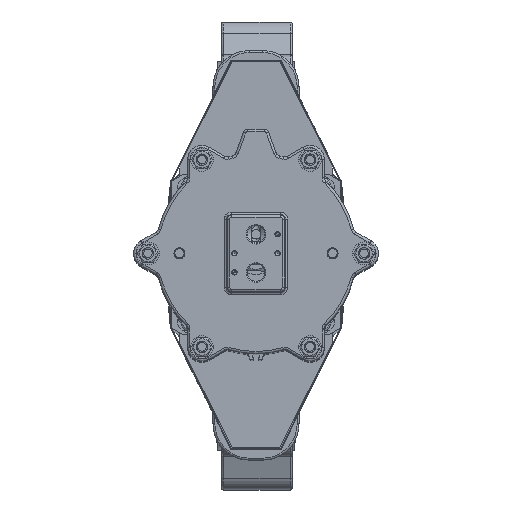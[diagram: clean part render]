
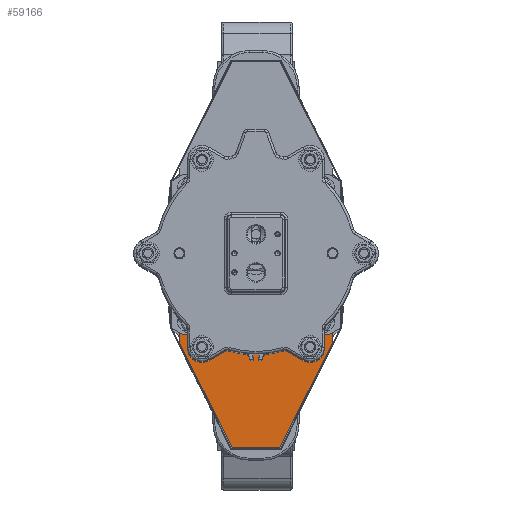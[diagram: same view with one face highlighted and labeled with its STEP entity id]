
A CAD part, top view. The second image highlights one B-rep face of the part: STEP entity #59166.
In plain terms, the highlighted planar face has unit normal (0, 0, 1).
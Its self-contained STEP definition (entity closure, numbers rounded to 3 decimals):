
#2711=PLANE('',#66504);
#7805=FACE_OUTER_BOUND('',#11788,.T.);
#11788=EDGE_LOOP('',(#55338,#55339,#55340,#55341,#55342,#55343));
#20032=LINE('',#121666,#23489);
#20035=LINE('',#121672,#23492);
#20060=LINE('',#121733,#23517);
#20064=LINE('',#121741,#23521);
#20066=LINE('',#121744,#23523);
#20067=LINE('',#121746,#23524);
#23489=VECTOR('',#84483,10.);
#23492=VECTOR('',#84488,10.);
#23517=VECTOR('',#84553,10.);
#23521=VECTOR('',#84561,10.);
#23523=VECTOR('',#84565,10.);
#23524=VECTOR('',#84568,10.);
#28963=VERTEX_POINT('',#121628);
#28975=VERTEX_POINT('',#121665);
#28977=VERTEX_POINT('',#121671);
#28990=VERTEX_POINT('',#121725);
#28993=VERTEX_POINT('',#121731);
#28995=VERTEX_POINT('',#121740);
#37744=EDGE_CURVE('',#28975,#28963,#20032,.T.);
#37747=EDGE_CURVE('',#28977,#28975,#20035,.T.);
#37778=EDGE_CURVE('',#28993,#28990,#20060,.T.);
#37782=EDGE_CURVE('',#28977,#28995,#20064,.T.);
#37784=EDGE_CURVE('',#28995,#28993,#20066,.T.);
#37785=EDGE_CURVE('',#28990,#28963,#20067,.T.);
#55338=ORIENTED_EDGE('',*,*,#37785,.F.);
#55339=ORIENTED_EDGE('',*,*,#37778,.F.);
#55340=ORIENTED_EDGE('',*,*,#37784,.F.);
#55341=ORIENTED_EDGE('',*,*,#37782,.F.);
#55342=ORIENTED_EDGE('',*,*,#37747,.T.);
#55343=ORIENTED_EDGE('',*,*,#37744,.T.);
#59166=ADVANCED_FACE('',(#7805),#2711,.T.);
#66504=AXIS2_PLACEMENT_3D('',#121745,#84566,#84567);
#84483=DIRECTION('',(0.446,-0.895,0.));
#84488=DIRECTION('',(0.,-1.,0.));
#84553=DIRECTION('',(-0.446,-0.895,0.));
#84561=DIRECTION('',(1.,0.,0.));
#84565=DIRECTION('',(0.,-1.,0.));
#84566=DIRECTION('center_axis',(0.,0.,
1.));
#84567=DIRECTION('ref_axis',(1.,0.,0.));
#84568=DIRECTION('',(-1.,0.,0.));
#121628=CARTESIAN_POINT('',(-25.005,-201.976,782.2));
#121665=CARTESIAN_POINT('',(-79.5,-92.676,782.2));
#121666=CARTESIAN_POINT('',(-24.656,-202.676,782.2));
#121671=CARTESIAN_POINT('',(-79.5,-80.676,782.2));
#121672=CARTESIAN_POINT('',(-79.5,-92.676,782.2));
#121725=CARTESIAN_POINT('',(25.005,-201.976,782.2));
#121731=CARTESIAN_POINT('',(79.5,-92.676,782.2));
#121733=CARTESIAN_POINT('',(24.656,-202.676,782.2));
#121740=CARTESIAN_POINT('',(79.5,-80.676,782.2));
#121741=CARTESIAN_POINT('',(79.5,-80.676,782.2));
#121744=CARTESIAN_POINT('',(79.5,-92.676,782.2));
#121745=CARTESIAN_POINT('Origin',(29.964,-132.625,782.2));
#121746=CARTESIAN_POINT('',(-14.982,-201.976,782.2));
